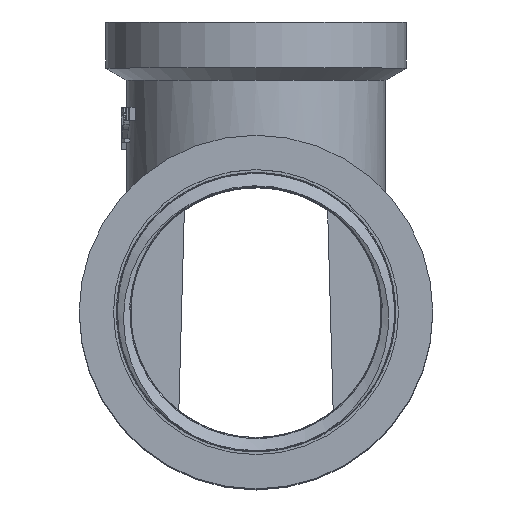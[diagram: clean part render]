
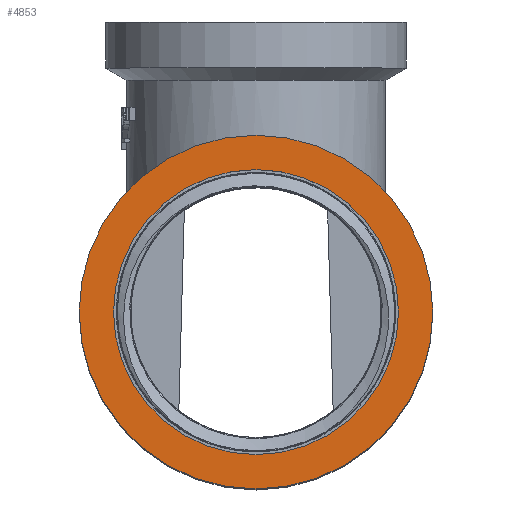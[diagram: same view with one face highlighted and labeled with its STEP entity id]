
A CAD part, top view. The second image highlights one B-rep face of the part: STEP entity #4853.
In plain terms, the highlighted planar face has unit normal (0, 0, 1).
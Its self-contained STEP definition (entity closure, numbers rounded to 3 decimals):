
#43=FACE_BOUND('',#1593,.T.);
#1080=PLANE('',#5270);
#1297=FACE_OUTER_BOUND('',#1592,.T.);
#1592=EDGE_LOOP('',(#4192,#4193));
#1593=EDGE_LOOP('',(#4194,#4195));
#1849=CIRCLE('',#5268,16.75);
#1850=CIRCLE('',#5269,16.75);
#1851=CIRCLE('',#5271,13.5);
#1852=CIRCLE('',#5272,13.5);
#2256=VERTEX_POINT('',#9563);
#2257=VERTEX_POINT('',#9564);
#2258=VERTEX_POINT('',#9569);
#2259=VERTEX_POINT('',#9570);
#2928=EDGE_CURVE('',#2256,#2257,#1849,.T.);
#2929=EDGE_CURVE('',#2257,#2256,#1850,.T.);
#2931=EDGE_CURVE('',#2258,#2259,#1851,.T.);
#2932=EDGE_CURVE('',#2259,#2258,#1852,.T.);
#4192=ORIENTED_EDGE('',*,*,#2928,.T.);
#4193=ORIENTED_EDGE('',*,*,#2929,.T.);
#4194=ORIENTED_EDGE('',*,*,#2931,.F.);
#4195=ORIENTED_EDGE('',*,*,#2932,.F.);
#4853=ADVANCED_FACE('',(#1297,#43),#1080,.T.);
#5268=AXIS2_PLACEMENT_3D('',#9565,#6261,#6262);
#5269=AXIS2_PLACEMENT_3D('',#9566,#6263,#6264);
#5270=AXIS2_PLACEMENT_3D('',#9568,#6266,#6267);
#5271=AXIS2_PLACEMENT_3D('',#9571,#6268,#6269);
#5272=AXIS2_PLACEMENT_3D('',#9572,#6270,#6271);
#6261=DIRECTION('center_axis',(0.,0.,1.));
#6262=DIRECTION('ref_axis',(1.,0.,0.));
#6263=DIRECTION('center_axis',(0.,0.,1.));
#6264=DIRECTION('ref_axis',(1.,0.,0.));
#6266=DIRECTION('center_axis',(0.,0.,1.));
#6267=DIRECTION('ref_axis',(1.,0.,0.));
#6268=DIRECTION('center_axis',(0.,0.,1.));
#6269=DIRECTION('ref_axis',(1.,0.,0.));
#6270=DIRECTION('center_axis',(0.,0.,1.));
#6271=DIRECTION('ref_axis',(1.,0.,0.));
#9563=CARTESIAN_POINT('',(0.,-16.75,28.75));
#9564=CARTESIAN_POINT('',(0.,16.75,28.75));
#9565=CARTESIAN_POINT('Origin',(0.,0.,28.75));
#9566=CARTESIAN_POINT('Origin',(0.,0.,28.75));
#9568=CARTESIAN_POINT('Origin',(0.,-13.5,28.75));
#9569=CARTESIAN_POINT('',(0.,-13.5,28.75));
#9570=CARTESIAN_POINT('',(0.,13.5,28.75));
#9571=CARTESIAN_POINT('Origin',(0.,0.,28.75));
#9572=CARTESIAN_POINT('Origin',(0.,0.,28.75));
